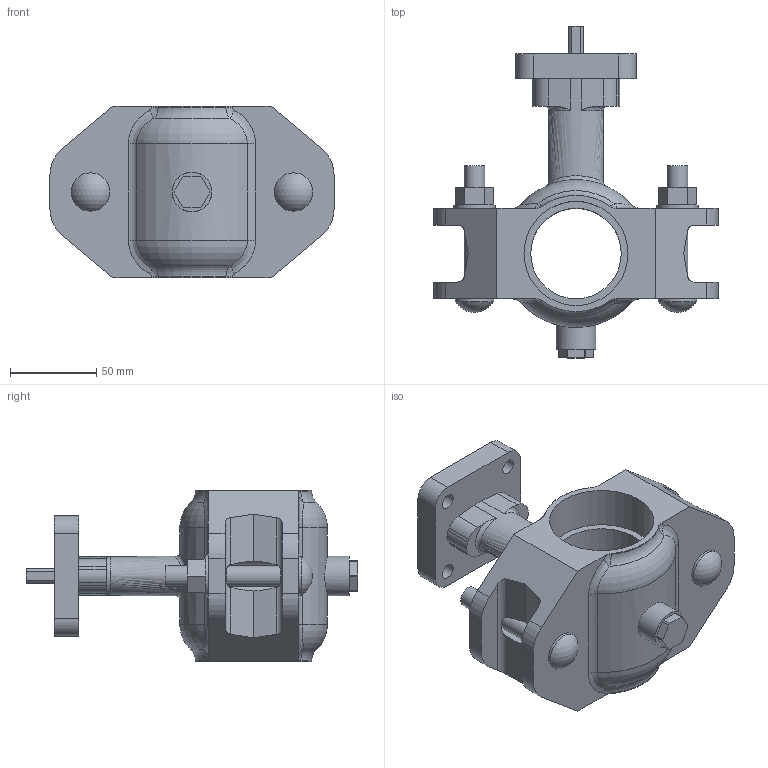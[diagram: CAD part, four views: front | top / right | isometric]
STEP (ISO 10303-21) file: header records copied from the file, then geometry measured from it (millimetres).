
FILE_DESCRIPTION(/* description */ ('VIC SS IR VALVE BUTTERFLY BARE SERIES 124 (OGS)','CAx-IF Rec.Pracs.---Representation and Presentation of Product Manufacturing Information (PMI)---4.0---2014-10-13'),/* implementation_level */ '2;1');
FILE_NAME(/* name */ 'C:\IR-124\step\Victaulic_SS-OGS_Valve Butterfly Bare_IR_Series 124 (OGS)\Victaulic_SS-OGS_Valve Butterfly Bare_IR_Series 124 (OGS)_2 (50).stp',/* time_stamp */ '2021-08-02T15:24:03+06:00',/* author */ ('Vjadhav'),/* organization */ ('Victaulic'),/* preprocessor_version */ 'ST-DEVELOPER v17.2',/* originating_system */ 'Autodesk Inventor 2019',/* authorisation */ '');
FILE_SCHEMA (('AP242_MANAGED_MODEL_BASED_3D_ENGINEERING_MIM_LF { 1 0 10303 442 1 1 4 }'));
Length unit declared in the file: inch
Products named in the file (1): 124-02.0
Bounding box: 164.59 x 192.28 x 99.31 mm (x, y, z)
Volume: 675021.9 mm3; surface area: 102056 mm2
Topology: 1 solids, 1 shells, 185 faces, 498 edges, 330 vertices
Faces by surface type: plane 91, cylinder 64, bspline 20, torus 8, sphere 2
Full cylindrical faces by diameter (mm): 8.788 x4, 11.938 x4, 22.225 x2, 22.987 x1, 23.876 x2, 52.387 x1, 60.325 x2
Entity records: 7219 total; most frequent: CARTESIAN_POINT 2217, ORIENTED_EDGE 996, DIRECTION 970, EDGE_CURVE 498, AXIS2_PLACEMENT_3D 347, VERTEX_POINT 330, LINE 276, VECTOR 276
